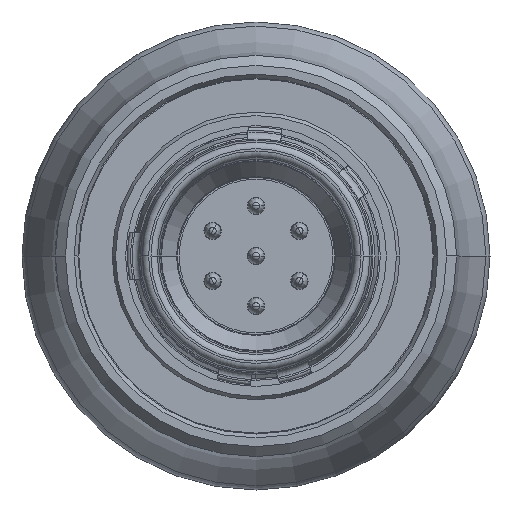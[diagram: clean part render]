
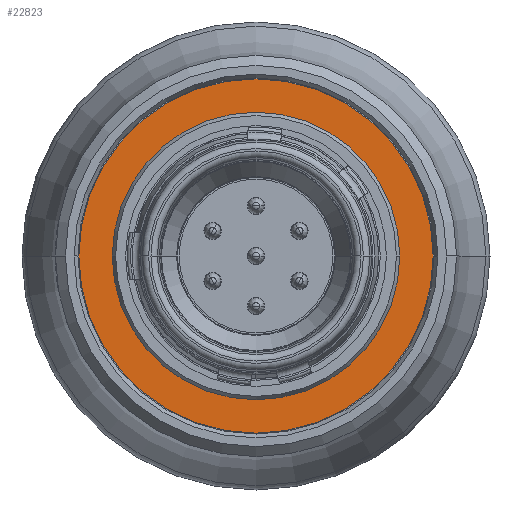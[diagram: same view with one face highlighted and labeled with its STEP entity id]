
A CAD part, left-side view. The second image highlights one B-rep face of the part: STEP entity #22823.
In plain terms, the highlighted planar face has unit normal (-1, 0, 0).
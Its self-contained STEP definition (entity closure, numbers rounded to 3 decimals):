
#7377=CARTESIAN_POINT('',(10.001,0.,0.));
#7378=DIRECTION('',(1.,0.,0.));
#7379=DIRECTION('',(0.,1.,0.));
#7380=AXIS2_PLACEMENT_3D('',#7377,#7378,#7379);
#7382=CARTESIAN_POINT('',(10.001,0.,0.));
#7383=DIRECTION('',(1.,0.,0.));
#7384=DIRECTION('',(0.,-1.,0.));
#7385=AXIS2_PLACEMENT_3D('',#7382,#7383,#7384);
#7387=CARTESIAN_POINT('',(10.001,0.,0.));
#7388=DIRECTION('',(-1.,0.,0.));
#7389=DIRECTION('',(0.,1.,0.));
#7390=AXIS2_PLACEMENT_3D('',#7387,#7388,#7389);
#7392=CARTESIAN_POINT('',(10.001,0.,0.));
#7393=DIRECTION('',(-1.,0.,0.));
#7394=DIRECTION('',(0.,-1.,0.));
#7395=AXIS2_PLACEMENT_3D('',#7392,#7393,#7394);
#11267=CARTESIAN_POINT('',(10.001,5.3,0.));
#11268=VERTEX_POINT('',#11267);
#11269=CARTESIAN_POINT('',(10.001,-5.3,0.));
#11270=VERTEX_POINT('',#11269);
#11271=CARTESIAN_POINT('',(10.001,4.3,0.));
#11272=CARTESIAN_POINT('',(10.001,-4.3,0.));
#11273=VERTEX_POINT('',#11271);
#11274=VERTEX_POINT('',#11272);
#22808=CARTESIAN_POINT('',(10.001,0.,0.));
#22809=DIRECTION('',(1.,0.,0.));
#22810=DIRECTION('',(0.,-1.,0.));
#22811=AXIS2_PLACEMENT_3D('',#22808,#22809,#22810);
#22812=PLANE('',#22811);
#22813=ORIENTED_EDGE('',*,*,#22795,.T.);
#22814=ORIENTED_EDGE('',*,*,#22773,.T.);
#22815=EDGE_LOOP('',(#22813,#22814));
#22816=FACE_OUTER_BOUND('',#22815,.F.);
#22818=ORIENTED_EDGE('',*,*,#22817,.T.);
#22820=ORIENTED_EDGE('',*,*,#22819,.T.);
#22821=EDGE_LOOP('',(#22818,#22820));
#22822=FACE_BOUND('',#22821,.F.);
#7381=CIRCLE('',#7380,5.3);
#7386=CIRCLE('',#7385,5.3);
#7391=CIRCLE('',#7390,4.3);
#7396=CIRCLE('',#7395,4.3);
#22773=EDGE_CURVE('',#11270,#11268,#7386,.T.);
#22795=EDGE_CURVE('',#11268,#11270,#7381,.T.);
#22817=EDGE_CURVE('',#11273,#11274,#7391,.T.);
#22819=EDGE_CURVE('',#11274,#11273,#7396,.T.);
#22823=ADVANCED_FACE('',(#22816,#22822),#22812,.F.);
